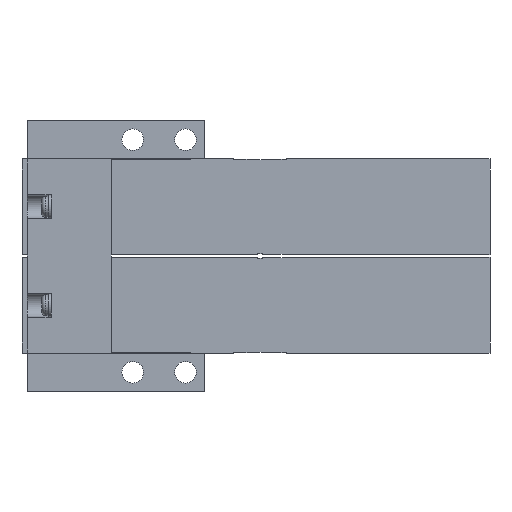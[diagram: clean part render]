
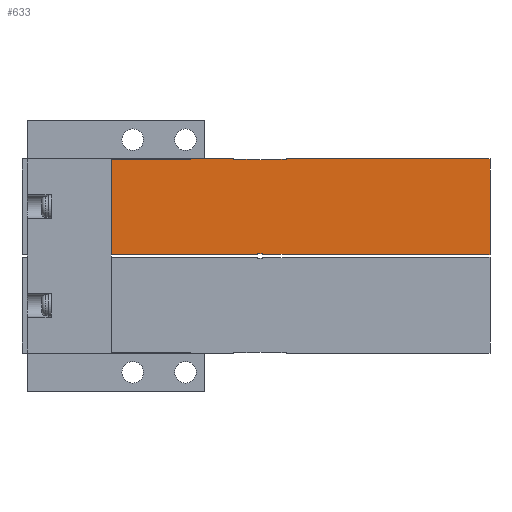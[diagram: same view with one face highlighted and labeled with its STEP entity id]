
A CAD part, front view. The second image highlights one B-rep face of the part: STEP entity #633.
In plain terms, the highlighted planar face has unit normal (0, -1, 0).
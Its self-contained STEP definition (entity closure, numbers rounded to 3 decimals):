
#633=ADVANCED_FACE('',(#1383),#1384,.F.);
#1383=FACE_OUTER_BOUND('',#2362,.T.);
#1384=PLANE('',#2363);
#2362=EDGE_LOOP('',(#4949,#4950,#4951,#4952,#4953,#4954,#4955,#4956,#4957,#4958,#4959,#4960,#4961,#4962,#4963,#4964,#4965,#4966,#4967,#4968,#4969,#4970,#4971,#4972));
#2363=AXIS2_PLACEMENT_3D('',#4973,#4974,#4975);
#4949=ORIENTED_EDGE('',*,*,#6925,.F.);
#4950=ORIENTED_EDGE('',*,*,#6926,.T.);
#4951=ORIENTED_EDGE('',*,*,#6912,.T.);
#4952=ORIENTED_EDGE('',*,*,#6927,.F.);
#4953=ORIENTED_EDGE('',*,*,#6928,.F.);
#4954=ORIENTED_EDGE('',*,*,#6929,.T.);
#4955=ORIENTED_EDGE('',*,*,#6930,.F.);
#4956=ORIENTED_EDGE('',*,*,#6931,.T.);
#4957=ORIENTED_EDGE('',*,*,#6932,.F.);
#4958=ORIENTED_EDGE('',*,*,#6933,.T.);
#4959=ORIENTED_EDGE('',*,*,#6934,.T.);
#4960=ORIENTED_EDGE('',*,*,#6935,.T.);
#4961=ORIENTED_EDGE('',*,*,#6900,.T.);
#4962=ORIENTED_EDGE('',*,*,#6936,.F.);
#4963=ORIENTED_EDGE('',*,*,#6937,.T.);
#4964=ORIENTED_EDGE('',*,*,#6938,.F.);
#4965=ORIENTED_EDGE('',*,*,#6939,.T.);
#4966=ORIENTED_EDGE('',*,*,#6940,.T.);
#4967=ORIENTED_EDGE('',*,*,#6941,.T.);
#4968=ORIENTED_EDGE('',*,*,#6942,.T.);
#4969=ORIENTED_EDGE('',*,*,#6943,.T.);
#4970=ORIENTED_EDGE('',*,*,#6944,.F.);
#4971=ORIENTED_EDGE('',*,*,#6945,.F.);
#4972=ORIENTED_EDGE('',*,*,#6946,.F.);
#4973=CARTESIAN_POINT('',(18.6,0.0,10.0));
#4974=DIRECTION('',(-0.0,1.0,0.0));
#4975=DIRECTION('',(1.0,0.0,0.0));
#6900=EDGE_CURVE('',#8459,#8457,#8460,.T.);
#6912=EDGE_CURVE('',#8474,#8478,#8480,.T.);
#6925=EDGE_CURVE('',#8503,#8504,#8505,.T.);
#6926=EDGE_CURVE('',#8503,#8474,#8506,.T.);
#6927=EDGE_CURVE('',#8507,#8478,#8508,.T.);
#6928=EDGE_CURVE('',#8509,#8507,#8510,.T.);
#6929=EDGE_CURVE('',#8509,#8511,#8512,.T.);
#6930=EDGE_CURVE('',#8513,#8511,#8514,.T.);
#6931=EDGE_CURVE('',#8513,#8515,#8516,.T.);
#6932=EDGE_CURVE('',#8517,#8515,#8518,.T.);
#6933=EDGE_CURVE('',#8517,#8519,#8520,.T.);
#6934=EDGE_CURVE('',#8519,#8521,#8522,.T.);
#6935=EDGE_CURVE('',#8521,#8459,#8523,.T.);
#6936=EDGE_CURVE('',#8524,#8457,#8525,.T.);
#6937=EDGE_CURVE('',#8524,#8526,#8527,.T.);
#6938=EDGE_CURVE('',#8528,#8526,#8529,.T.);
#6939=EDGE_CURVE('',#8528,#8530,#8531,.T.);
#6940=EDGE_CURVE('',#8530,#8532,#8533,.T.);
#6941=EDGE_CURVE('',#8532,#8534,#8535,.T.);
#6942=EDGE_CURVE('',#8534,#8536,#8537,.T.);
#6943=EDGE_CURVE('',#8536,#8538,#8539,.T.);
#6944=EDGE_CURVE('',#8540,#8538,#8541,.T.);
#6945=EDGE_CURVE('',#8542,#8540,#8543,.T.);
#6946=EDGE_CURVE('',#8504,#8542,#8544,.T.);
#8457=VERTEX_POINT('',#10957);
#8459=VERTEX_POINT('',#10960);
#8460=LINE('',#10961,#10962);
#8474=VERTEX_POINT('',#10983);
#8478=VERTEX_POINT('',#10989);
#8480=LINE('',#10992,#10993);
#8503=VERTEX_POINT('',#11028);
#8504=VERTEX_POINT('',#11029);
#8505=LINE('',#11030,#11031);
#8506=LINE('',#11032,#11033);
#8507=VERTEX_POINT('',#11034);
#8508=LINE('',#11035,#11036);
#8509=VERTEX_POINT('',#11037);
#8510=LINE('',#11038,#11039);
#8511=VERTEX_POINT('',#11040);
#8512=LINE('',#11041,#11042);
#8513=VERTEX_POINT('',#11043);
#8514=LINE('',#11044,#11045);
#8515=VERTEX_POINT('',#11046);
#8516=LINE('',#11047,#11048);
#8517=VERTEX_POINT('',#11049);
#8518=LINE('',#11050,#11051);
#8519=VERTEX_POINT('',#11052);
#8520=LINE('',#11053,#11054);
#8521=VERTEX_POINT('',#11055);
#8522=LINE('',#11056,#11057);
#8523=LINE('',#11058,#11059);
#8524=VERTEX_POINT('',#11060);
#8525=LINE('',#11061,#11062);
#8526=VERTEX_POINT('',#11063);
#8527=LINE('',#11064,#11065);
#8528=VERTEX_POINT('',#11066);
#8529=LINE('',#11067,#11068);
#8530=VERTEX_POINT('',#11069);
#8531=LINE('',#11070,#11071);
#8532=VERTEX_POINT('',#11072);
#8533=LINE('',#11073,#11074);
#8534=VERTEX_POINT('',#11075);
#8535=LINE('',#11076,#11077);
#8536=VERTEX_POINT('',#11078);
#8537=LINE('',#11079,#11080);
#8538=VERTEX_POINT('',#11081);
#8539=LINE('',#11082,#11083);
#8540=VERTEX_POINT('',#11084);
#8541=LINE('',#11085,#11086);
#8542=VERTEX_POINT('',#11087);
#8543=LINE('',#11088,#11089);
#8544=LINE('',#11090,#11091);
#10957=CARTESIAN_POINT('',(44.1,0.0,-10.0));
#10960=CARTESIAN_POINT('',(35.1,0.0,-10.0));
#10961=CARTESIAN_POINT('',(18.6,0.0,-10.0));
#10962=VECTOR('',#12923,1.0);
#10983=CARTESIAN_POINT('',(50.1,0.0,9.8));
#10989=CARTESIAN_POINT('',(49.1,0.0,9.8));
#10992=CARTESIAN_POINT('',(18.6,0.0,9.8));
#10993=VECTOR('',#12937,1.0);
#11028=CARTESIAN_POINT('',(50.1,0.0,9.9));
#11029=CARTESIAN_POINT('',(55.1,0.0,9.9));
#11030=CARTESIAN_POINT('',(44.1,0.0,9.9));
#11031=VECTOR('',#12950,1.0);
#11032=CARTESIAN_POINT('',(50.1,0.0,10.0));
#11033=VECTOR('',#12951,1.0);
#11034=CARTESIAN_POINT('',(49.1,0.0,9.9));
#11035=CARTESIAN_POINT('',(49.1,0.0,10.0));
#11036=VECTOR('',#12952,1.0);
#11037=CARTESIAN_POINT('',(44.1,0.0,9.9));
#11038=CARTESIAN_POINT('',(44.1,0.0,9.9));
#11039=VECTOR('',#12953,1.0);
#11040=CARTESIAN_POINT('',(44.1,0.0,10.0));
#11041=CARTESIAN_POINT('',(44.1,0.0,9.9));
#11042=VECTOR('',#12954,1.0);
#11043=CARTESIAN_POINT('',(35.1,0.0,10.0));
#11044=CARTESIAN_POINT('',(18.6,0.0,10.0));
#11045=VECTOR('',#12955,1.0);
#11046=CARTESIAN_POINT('',(35.1,0.0,9.9));
#11047=CARTESIAN_POINT('',(35.1,0.0,10.1));
#11048=VECTOR('',#12956,1.0);
#11049=CARTESIAN_POINT('',(18.6,0.0,9.9));
#11050=CARTESIAN_POINT('',(18.6,0.0,9.9));
#11051=VECTOR('',#12957,1.0);
#11052=CARTESIAN_POINT('',(18.6,0.0,-9.9));
#11053=CARTESIAN_POINT('',(18.6,0.0,10.0));
#11054=VECTOR('',#12958,1.0);
#11055=CARTESIAN_POINT('',(35.1,0.0,-9.9));
#11056=CARTESIAN_POINT('',(18.6,0.0,-9.9));
#11057=VECTOR('',#12959,1.0);
#11058=CARTESIAN_POINT('',(35.1,0.0,-9.9));
#11059=VECTOR('',#12960,1.0);
#11060=CARTESIAN_POINT('',(44.1,0.0,-9.9));
#11061=CARTESIAN_POINT('',(44.1,0.0,-9.9));
#11062=VECTOR('',#12961,1.0);
#11063=CARTESIAN_POINT('',(49.1,0.0,-9.9));
#11064=CARTESIAN_POINT('',(44.1,0.0,-9.9));
#11065=VECTOR('',#12962,1.0);
#11066=CARTESIAN_POINT('',(49.1,0.0,-9.8));
#11067=CARTESIAN_POINT('',(49.1,0.0,10.0));
#11068=VECTOR('',#12963,1.0);
#11069=CARTESIAN_POINT('',(50.1,0.0,-9.8));
#11070=CARTESIAN_POINT('',(18.6,0.0,-9.8));
#11071=VECTOR('',#12964,1.0);
#11072=CARTESIAN_POINT('',(50.1,0.0,-9.9));
#11073=CARTESIAN_POINT('',(50.1,0.0,10.0));
#11074=VECTOR('',#12965,1.0);
#11075=CARTESIAN_POINT('',(55.1,0.0,-9.9));
#11076=CARTESIAN_POINT('',(44.1,0.0,-9.9));
#11077=VECTOR('',#12966,1.0);
#11078=CARTESIAN_POINT('',(55.1,0.0,-10.0));
#11079=CARTESIAN_POINT('',(55.1,0.0,-9.9));
#11080=VECTOR('',#12967,1.0);
#11081=CARTESIAN_POINT('',(97.6,0.0,-10.0));
#11082=CARTESIAN_POINT('',(18.6,0.0,-10.0));
#11083=VECTOR('',#12968,1.0);
#11084=CARTESIAN_POINT('',(97.6,0.0,10.0));
#11085=CARTESIAN_POINT('',(97.6,0.0,10.0));
#11086=VECTOR('',#12969,1.0);
#11087=CARTESIAN_POINT('',(55.1,0.0,10.0));
#11088=CARTESIAN_POINT('',(18.6,0.0,10.0));
#11089=VECTOR('',#12970,1.0);
#11090=CARTESIAN_POINT('',(55.1,0.0,9.9));
#11091=VECTOR('',#12971,1.0);
#12923=DIRECTION('',(1.0,0.0,0.0));
#12937=DIRECTION('',(-1.0,0.0,0.0));
#12950=DIRECTION('',(1.0,0.0,0.0));
#12951=DIRECTION('',(0.0,0.0,-1.0));
#12952=DIRECTION('',(0.0,0.0,-1.0));
#12953=DIRECTION('',(1.0,0.0,0.0));
#12954=DIRECTION('',(0.0,0.0,1.0));
#12955=DIRECTION('',(1.0,0.0,0.0));
#12956=DIRECTION('',(0.0,0.0,-1.0));
#12957=DIRECTION('',(1.0,0.0,0.0));
#12958=DIRECTION('',(0.0,0.0,-1.0));
#12959=DIRECTION('',(1.0,0.0,0.0));
#12960=DIRECTION('',(0.0,0.0,-1.0));
#12961=DIRECTION('',(0.0,0.0,-1.0));
#12962=DIRECTION('',(1.0,0.0,0.0));
#12963=DIRECTION('',(0.0,0.0,-1.0));
#12964=DIRECTION('',(1.0,0.0,0.0));
#12965=DIRECTION('',(0.0,0.0,-1.0));
#12966=DIRECTION('',(1.0,0.0,0.0));
#12967=DIRECTION('',(0.0,0.0,-1.0));
#12968=DIRECTION('',(1.0,0.0,0.0));
#12969=DIRECTION('',(0.0,0.0,-1.0));
#12970=DIRECTION('',(1.0,0.0,0.0));
#12971=DIRECTION('',(0.0,0.0,1.0));
